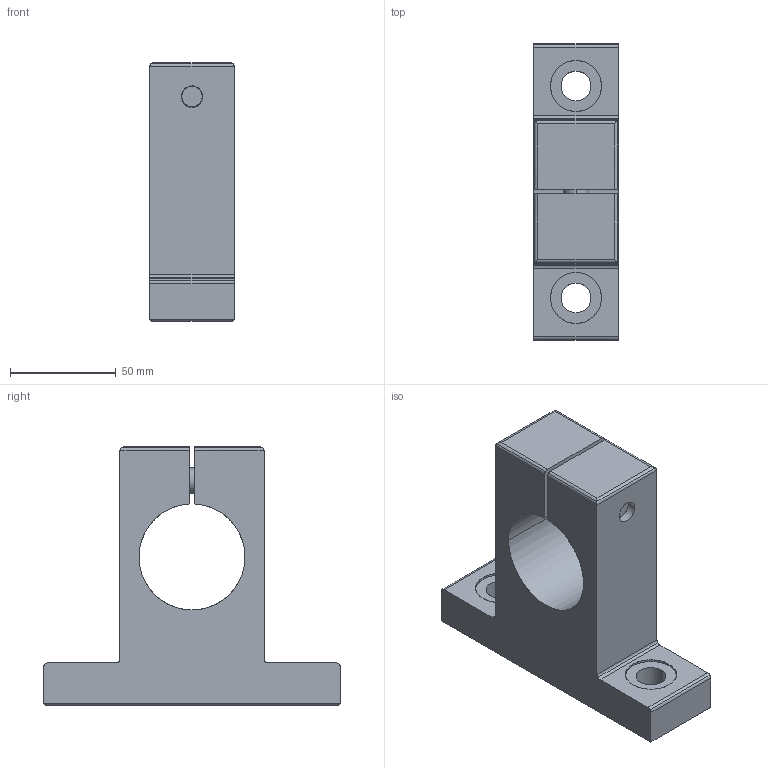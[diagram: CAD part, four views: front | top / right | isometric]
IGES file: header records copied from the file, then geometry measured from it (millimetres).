
Global section: file name: No Iges File Name specified; native system: AutoDesk Inventor R10; preprocessor: AutoDesk Inventor Iges Exporter R10; author: No Author specified; organization: No Organization specified; date: 20101214.152731; units: millimetre
Bounding box: 40 x 140 x 122 mm (x, y, z)
Surface area: 48674.7 mm2 (no closed solid volume)
Topology: 0 solids, 0 shells, 76 faces, 460 edges, 458 vertices
Faces by surface type: bspline 76
